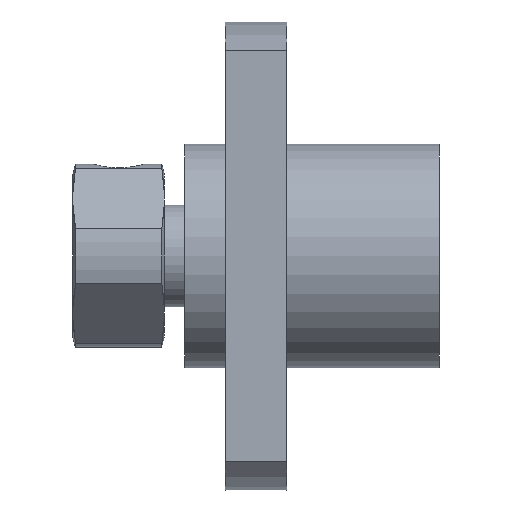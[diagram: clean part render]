
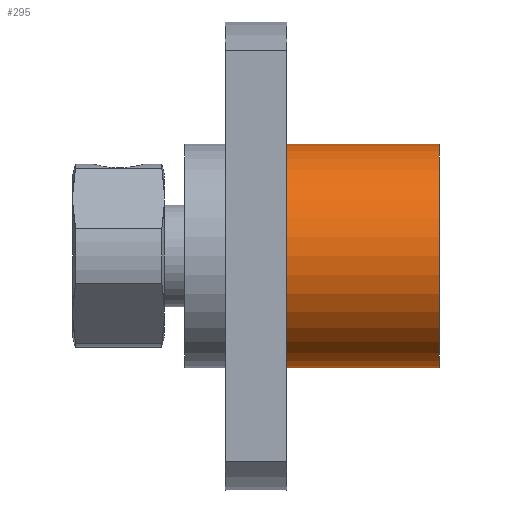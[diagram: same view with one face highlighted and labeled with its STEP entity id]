
A CAD part, front view. The second image highlights one B-rep face of the part: STEP entity #295.
In plain terms, the highlighted cylindrical face has radius 5.5 mm (diameter 11 mm), a partial arc.
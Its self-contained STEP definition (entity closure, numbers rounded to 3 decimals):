
#256=CARTESIAN_POINT('',(160.847,192.639,-14.924));
#257=VERTEX_POINT('',#256);
#258=CARTESIAN_POINT('',(160.847,192.639,-25.924));
#259=VERTEX_POINT('',#258);
#260=CARTESIAN_POINT('',(160.847,192.639,-20.424));
#261=DIRECTION('',(1.,0.,0.));
#262=DIRECTION('',(0.,-1.,0.));
#263=AXIS2_PLACEMENT_3D('',#260,#261,#262);
#264=CIRCLE('',#263,5.5);
#265=EDGE_CURVE('',#257,#259,#264,.T.);
#266=ORIENTED_EDGE('',*,*,#265,.T.);
#267=CARTESIAN_POINT('',(168.347,192.639,-25.924));
#268=VERTEX_POINT('',#267);
#269=CARTESIAN_POINT('',(160.847,192.639,-25.924));
#270=CARTESIAN_POINT('',(168.347,192.639,-25.924));
#271=B_SPLINE_CURVE_WITH_KNOTS('',1,(#269,#270),.UNSPECIFIED.,.F.,.F.,(2,2),(-0.682,0.682),.UNSPECIFIED.);
#272=EDGE_CURVE('',#259,#268,#271,.T.);
#273=ORIENTED_EDGE('',*,*,#272,.T.);
#274=CARTESIAN_POINT('',(168.347,192.639,-14.924));
#275=VERTEX_POINT('',#274);
#276=CARTESIAN_POINT('',(168.347,192.639,-20.424));
#277=DIRECTION('',(-1.,0.,0.));
#278=DIRECTION('',(0.,0.,-1.));
#279=AXIS2_PLACEMENT_3D('',#276,#277,#278);
#280=CIRCLE('',#279,5.5);
#281=EDGE_CURVE('',#268,#275,#280,.T.);
#282=ORIENTED_EDGE('',*,*,#281,.T.);
#283=CARTESIAN_POINT('',(168.347,192.639,-14.924));
#284=CARTESIAN_POINT('',(160.847,192.639,-14.924));
#285=B_SPLINE_CURVE_WITH_KNOTS('',1,(#283,#284),.UNSPECIFIED.,.F.,.F.,(2,2),(-0.682,0.682),.UNSPECIFIED.);
#286=EDGE_CURVE('',#275,#257,#285,.T.);
#287=ORIENTED_EDGE('',*,*,#286,.T.);
#288=EDGE_LOOP('',(#266,#273,#282,#287));
#289=FACE_OUTER_BOUND('',#288,.T.);
#290=CARTESIAN_POINT('',(160.847,192.639,-20.424));
#291=DIRECTION('',(1.,0.,0.));
#292=DIRECTION('',(0.,1.,0.));
#293=AXIS2_PLACEMENT_3D('',#290,#291,#292);
#294=CYLINDRICAL_SURFACE('',#293,5.5);
#295=ADVANCED_FACE('',(#289),#294,.T.);
